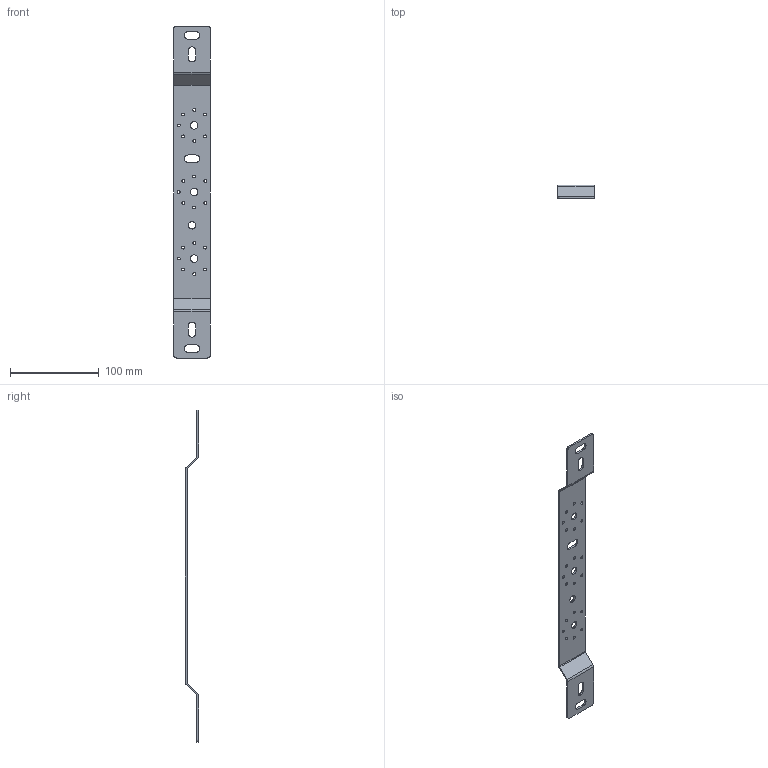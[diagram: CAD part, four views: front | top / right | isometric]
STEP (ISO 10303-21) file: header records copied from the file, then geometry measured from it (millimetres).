
FILE_DESCRIPTION(('STEP AP203'), '1');
FILE_NAME('覆.745422.002 - VT.PML 砑. 斁艜馰', '', ('UNSPECIFIED'), ('UNSPECIFIED'), 'C3D Converter', 'C3D Toolkit', '');
FILE_SCHEMA(('CONFIG_CONTROL_DESIGN'));
Length unit declared in the file: millimetre
Products named in the file (1): ВР.745422.002
Bounding box: 41 x 14.99 x 374.12 mm (x, y, z)
Volume: 29419.1 mm3; surface area: 32189.1 mm2
Topology: 1 solids, 1 shells, 87 faces, 328 edges, 264 vertices
Faces by surface type: cylinder 47, plane 40
Full cylindrical faces by diameter (mm): 3.242 x21, 8.5 x4
Entity records: 6495 total; most frequent: CARTESIAN_POINT 3364, DIRECTION 636, ORIENTED_EDGE 396, AXIS2_PLACEMENT_3D 266, EDGE_CURVE 198, CIRCLE 178, EDGE_LOOP 172, VERTEX_POINT 138
